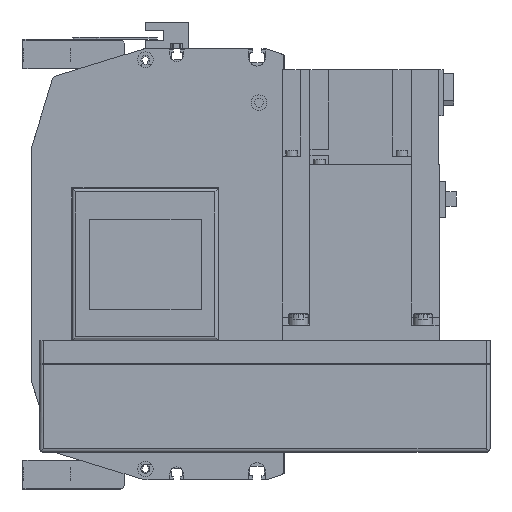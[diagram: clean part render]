
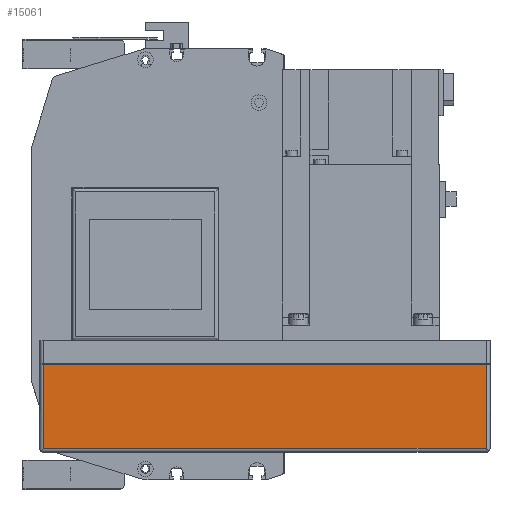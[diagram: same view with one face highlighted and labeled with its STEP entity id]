
A CAD part, left-side view. The second image highlights one B-rep face of the part: STEP entity #15061.
In plain terms, the highlighted planar face has unit normal (-1, 0, 0) as drawn and (0, 1, 0) by its records, which use the part's own axes.
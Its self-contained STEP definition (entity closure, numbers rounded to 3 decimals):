
#2556=ORIENTED_EDGE('',*,*,#6130,.F.);
#2557=ORIENTED_EDGE('',*,*,#6070,.T.);
#2558=ORIENTED_EDGE('',*,*,#6131,.F.);
#2559=ORIENTED_EDGE('',*,*,#6065,.F.);
#6065=EDGE_CURVE('',#7998,#7999,#9556,.T.);
#6070=EDGE_CURVE('',#8004,#8003,#9558,.T.);
#6130=EDGE_CURVE('',#8004,#7998,#9601,.T.);
#6131=EDGE_CURVE('',#7999,#8003,#9602,.T.);
#7998=VERTEX_POINT('',#23453);
#7999=VERTEX_POINT('',#23455);
#8003=VERTEX_POINT('',#23464);
#8004=VERTEX_POINT('',#23466);
#9556=LINE('',#23454,#10909);
#9558=LINE('',#23465,#10911);
#9601=LINE('',#23588,#10954);
#9602=LINE('',#23589,#10955);
#10909=VECTOR('',#18722,1000.);
#10911=VECTOR('',#18732,1000.);
#10954=VECTOR('',#18853,1000.);
#10955=VECTOR('',#18854,1000.);
#12116=EDGE_LOOP('',(#2556,#2557,#2558,#2559));
#13349=FACE_BOUND('',#12116,.T.);
#14420=PLANE('',#16173);
#15061=ADVANCED_FACE('',(#13349),#14420,.T.);
#16173=AXIS2_PLACEMENT_3D('',#23587,#18851,#18852);
#18722=DIRECTION('',(0.,0.,1.));
#18732=DIRECTION('',(0.,0.,1.));
#18851=DIRECTION('',(0.,1.,0.));
#18852=DIRECTION('',(0.,0.,1.));
#18853=DIRECTION('',(1.,0.,0.));
#18854=DIRECTION('',(-1.,0.,0.));
#23453=CARTESIAN_POINT('',(-2.,54.,-55.));
#23454=CARTESIAN_POINT('',(-2.,54.,-57.));
#23455=CARTESIAN_POINT('',(-2.,54.,-12.));
#23464=CARTESIAN_POINT('',(-228.,54.,-12.));
#23465=CARTESIAN_POINT('',(-228.,54.,-57.));
#23466=CARTESIAN_POINT('',(-228.,54.,-55.));
#23587=CARTESIAN_POINT('',(-2.,54.,-57.));
#23588=CARTESIAN_POINT('',(-230.,54.,-55.));
#23589=CARTESIAN_POINT('',(-2.,54.,-12.));
